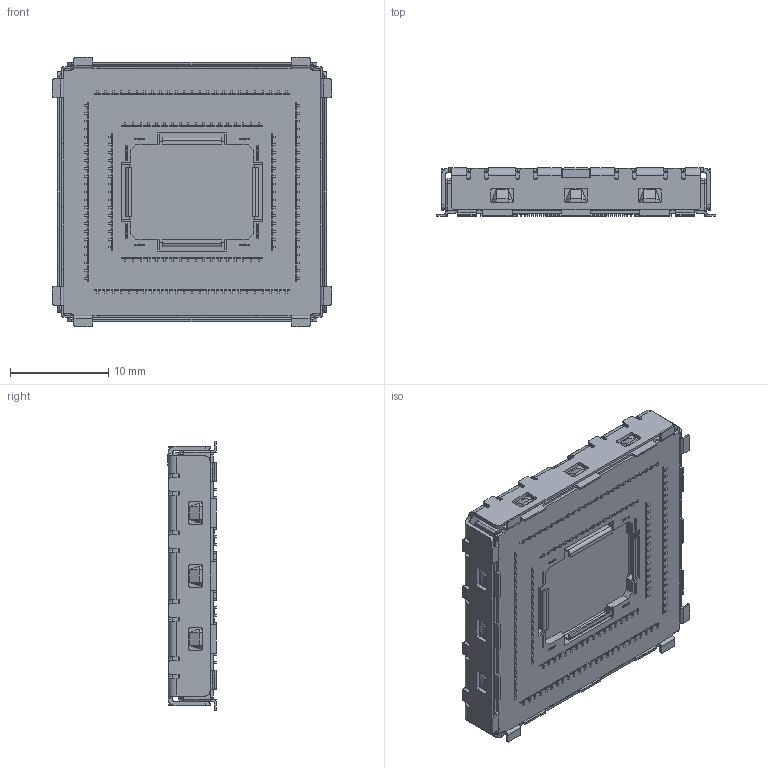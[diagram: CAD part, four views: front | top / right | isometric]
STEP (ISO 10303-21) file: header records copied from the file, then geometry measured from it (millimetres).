
FILE_DESCRIPTION((''),'2;1');
FILE_NAME('SNAP-IN-SOCKET-2-5','2014-09-12T',('JPM'),(''),'PRO/ENGINEER BY PARAMETRIC TECHNOLOGY CORPORATION, 2012480','PRO/ENGINEER BY PARAMETRIC TECHNOLOGY CORPORATION, 2012480','');
FILE_SCHEMA(('CONFIG_CONTROL_DESIGN'));
Products named in the file (1): SNAP-IN-SOCKET-2-5
Bounding box: 28.4 x 4.92 x 27.4 mm (x, y, z)
Volume: 2704.6 mm3; surface area: 5755.2 mm2
Topology: 2 solids, 2 shells, 5471 faces, 15269 edges, 10074 vertices
Faces by surface type: plane 4073, cylinder 1234, extrusion 156, cone 8
Entity records: 175135 total; most frequent: CARTESIAN_POINT 32642, ORIENTED_EDGE 30538, DIRECTION 28139, EDGE_CURVE 15269, VECTOR 12581, LINE 12425, VERTEX_POINT 10074, AXIS2_PLACEMENT_3D 7779
